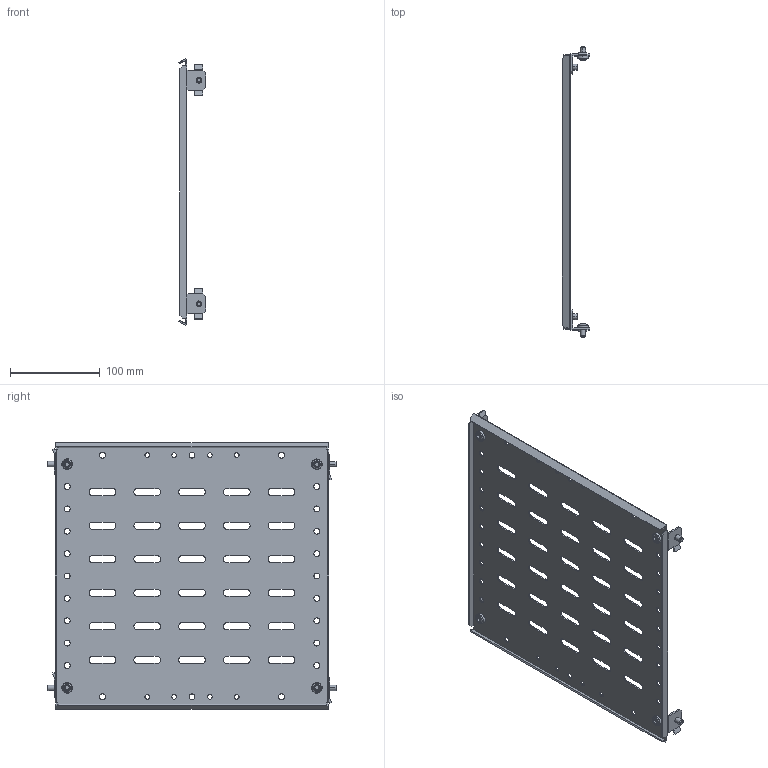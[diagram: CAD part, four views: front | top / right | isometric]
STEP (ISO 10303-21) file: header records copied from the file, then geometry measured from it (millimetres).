
FILE_DESCRIPTION (( 'STEP AP214' ), '1' );
FILE_NAME ('FO-00-SWF-030-040 Ïåðåãîðîäêà ñåêöèîíèðîâàíèÿ çàäíÿÿ 300õ400 ìì.STEP', '2025-08-12T08:20:47', ( '' ), ( '' ), 'SwSTEP 2.0', 'SolidWorks 2023', '' );
FILE_SCHEMA (( 'AUTOMOTIVE_DESIGN' ));
Length unit declared in the file: millimetre
Products named in the file (1): FO-00-SWF-030-040 Перегородка секционирования задняя 300х400 мм
Bounding box: 30.52 x 324 x 297.66 mm (x, y, z)
Volume: 150147.6 mm3; surface area: 197933.4 mm2
Topology: 1 solids, 5 shells, 618 faces, 1698 edges, 1110 vertices
Faces by surface type: cylinder 330, plane 232, cone 24, torus 24, sphere 8
Entity records: 20203 total; most frequent: CARTESIAN_POINT 3695, DIRECTION 3546, ORIENTED_EDGE 3396, EDGE_CURVE 1698, AXIS2_PLACEMENT_3D 1297, VERTEX_POINT 1110, VECTOR 952, LINE 952
